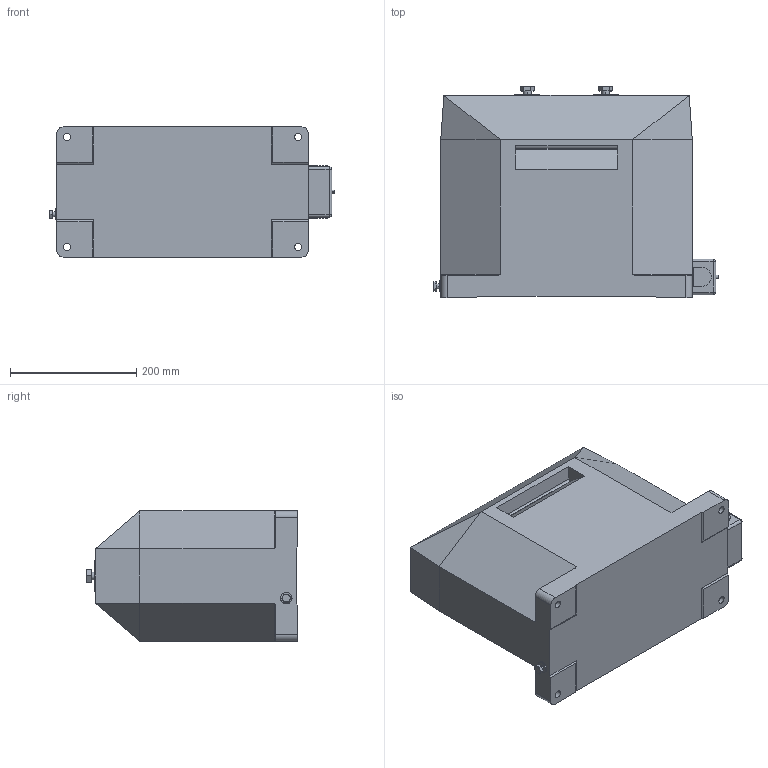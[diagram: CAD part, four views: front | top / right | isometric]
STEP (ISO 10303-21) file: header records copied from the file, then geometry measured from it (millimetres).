
FILE_DESCRIPTION (( 'STEP AP214' ), '1' );
FILE_NAME ('24305-022_AM-40b_5-600A.STEP', '2025-10-07T08:22:01', ( '' ), ( '' ), 'SwSTEP 2.0', 'SolidWorks 2020', '' );
FILE_SCHEMA (( 'AUTOMOTIVE_DESIGN' ));
Length unit declared in the file: millimetre
Products named in the file (1): 24305-022_AM-40b_5-600A
Bounding box: 452 x 334.5 x 206 mm (x, y, z)
Volume: 21557572.6 mm3; surface area: 522879.2 mm2
Topology: 1 solids, 1 shells, 268 faces, 703 edges, 442 vertices
Faces by surface type: plane 146, cylinder 96, cone 10, sphere 8, torus 4, bspline 4
Entity records: 9693 total; most frequent: CARTESIAN_POINT 2062, ORIENTED_EDGE 1390, DIRECTION 1349, EDGE_CURVE 695, AXIS2_PLACEMENT_3D 450, LINE 449, VECTOR 449, VERTEX_POINT 442
